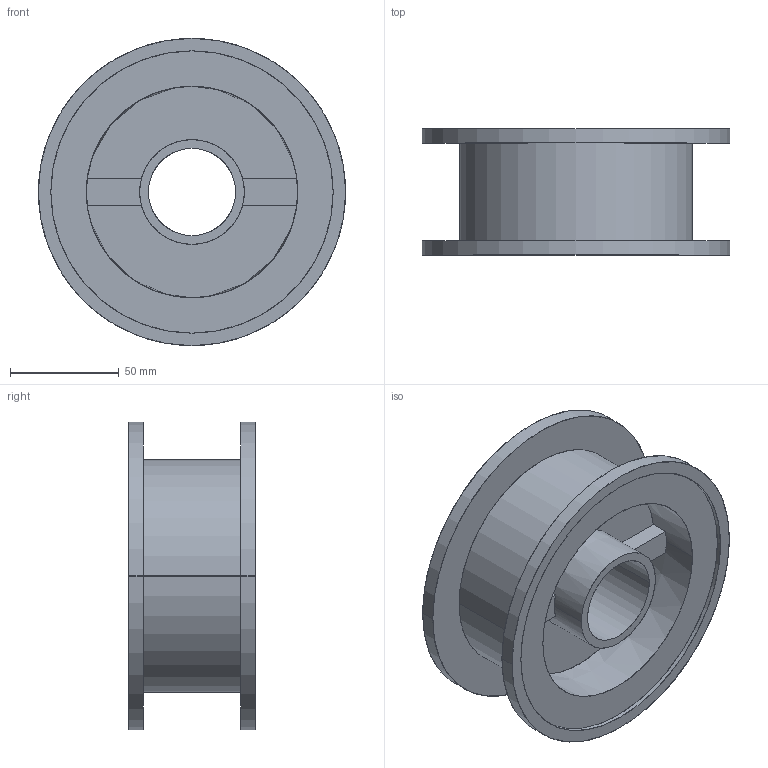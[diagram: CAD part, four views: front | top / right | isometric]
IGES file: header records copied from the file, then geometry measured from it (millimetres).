
Start section: SolidWorks IGES file using analytic representation for surfaces
Global section: file name: C:\Documents and Settings\URETIM3\Desktop\yeni katalog tolgay\304 avara kasnak\304 023 402.IGS; native system: SolidWorks 2006 by SolidWorks Corporation; preprocessor: SolidWorks 2006 by SolidWorks Corporation; author: URETIM3; date: 061031.122425; units: millimetre
Bounding box: 141 x 58 x 141 mm (x, y, z)
Surface area: 95153.4 mm2 (no closed solid volume)
Topology: 0 solids, 0 shells, 44 faces, 1400 edges, 1400 vertices
Faces by surface type: bspline 24, revolution 20
